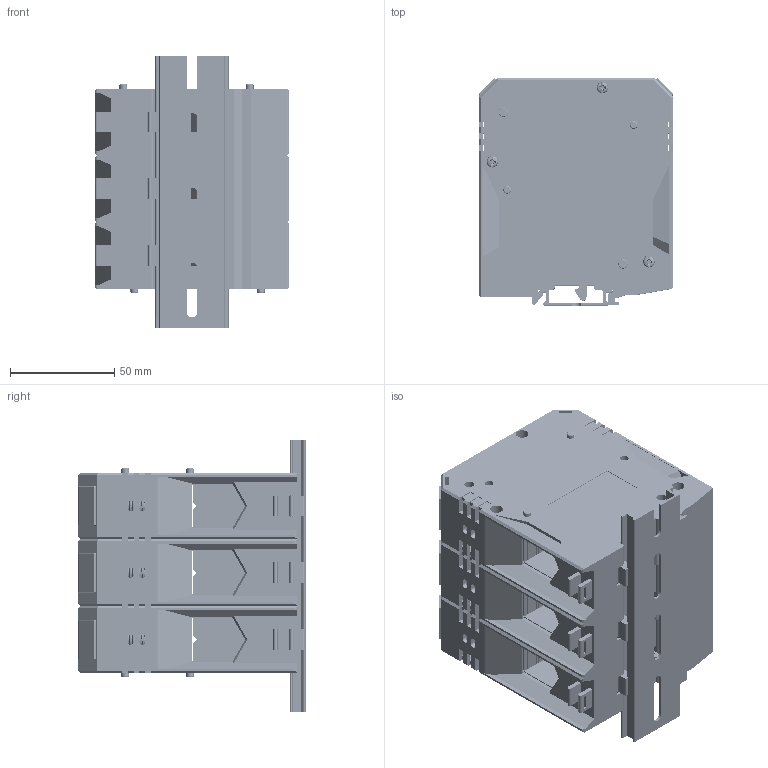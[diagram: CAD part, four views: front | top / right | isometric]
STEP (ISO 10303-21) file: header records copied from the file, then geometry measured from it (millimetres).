
FILE_DESCRIPTION((''),'2;1');
FILE_NAME('ASM0006_ASM','2016-06-13T',('Administrator'),(''),'PRO/ENGINEER BY PARAMETRIC TECHNOLOGY CORPORATION, 2012360','PRO/ENGINEER BY PARAMETRIC TECHNOLOGY CORPORATION, 2012360','');
FILE_SCHEMA(('CONFIG_CONTROL_DESIGN'));
Products named in the file (3): BREP_WITH_VOIDS_557106; ASM0007_ASM; ASM0006_ASM
Assembly tree (2 placements, depth 3):
  ASM0006_ASM
    ASM0007_ASM
      BREP_WITH_VOIDS_557106
Bounding box: 93.37 x 108.84 x 130 mm (x, y, z)
Volume: 379715.4 mm3; surface area: 301366.8 mm2
Topology: 1 solids, 96 shells, 10556 faces, 30714 edges, 20315 vertices
Faces by surface type: plane 6614, cylinder 2545, bspline 978, cone 171, torus 130, sphere 60, extrusion 58
Entity records: 461501 total; most frequent: CARTESIAN_POINT 192838, ORIENTED_EDGE 61380, DIRECTION 47638, EDGE_CURVE 30690, VECTOR 21754, LINE 21696, VERTEX_POINT 20315, AXIS2_PLACEMENT_3D 12942
